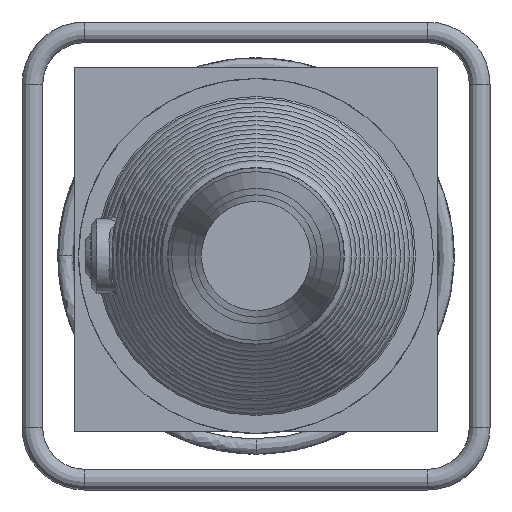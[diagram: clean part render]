
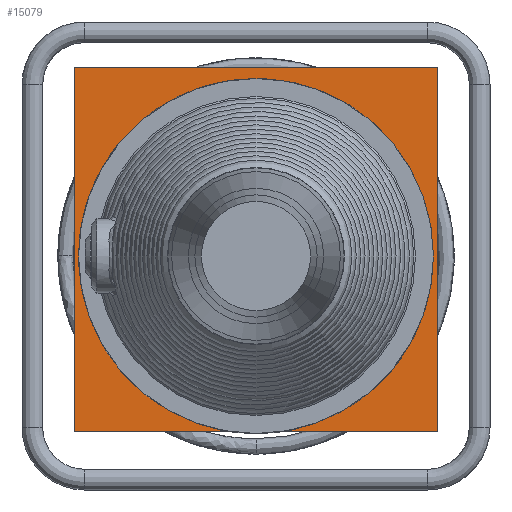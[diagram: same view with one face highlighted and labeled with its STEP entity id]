
A CAD part, left-side view. The second image highlights one B-rep face of the part: STEP entity #15079.
In plain terms, the highlighted planar face has unit normal (-1, 0, 0).
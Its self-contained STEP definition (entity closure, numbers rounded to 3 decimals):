
#1535=PLANE('',#15861);
#2458=LINE('',#35321,#3384);
#2459=LINE('',#35323,#3385);
#2460=LINE('',#35325,#3386);
#2461=LINE('',#35327,#3387);
#2462=LINE('',#35328,#3388);
#3384=VECTOR('',#18278,118.192);
#3385=VECTOR('',#18279,280.);
#3386=VECTOR('',#18280,280.);
#3387=VECTOR('',#18281,280.);
#3388=VECTOR('',#18282,118.192);
#4456=FACE_OUTER_BOUND('',#5448,.T.);
#5448=EDGE_LOOP('',(#13633,#13634,#13635,#13636,#13637,#13638));
#5940=CIRCLE('',#15838,136.5);
#7385=VERTEX_POINT('',#35293);
#7386=VERTEX_POINT('',#35294);
#7387=VERTEX_POINT('',#35320);
#7388=VERTEX_POINT('',#35322);
#7389=VERTEX_POINT('',#35324);
#7390=VERTEX_POINT('',#35326);
#9500=EDGE_CURVE('',#7385,#7386,#5940,.T.);
#9503=EDGE_CURVE('',#7386,#7387,#2458,.T.);
#9504=EDGE_CURVE('',#7387,#7388,#2459,.T.);
#9505=EDGE_CURVE('',#7388,#7389,#2460,.T.);
#9506=EDGE_CURVE('',#7389,#7390,#2461,.T.);
#9507=EDGE_CURVE('',#7390,#7385,#2462,.T.);
#13633=ORIENTED_EDGE('',*,*,#9500,.T.);
#13634=ORIENTED_EDGE('',*,*,#9503,.T.);
#13635=ORIENTED_EDGE('',*,*,#9504,.T.);
#13636=ORIENTED_EDGE('',*,*,#9505,.T.);
#13637=ORIENTED_EDGE('',*,*,#9506,.T.);
#13638=ORIENTED_EDGE('',*,*,#9507,.T.);
#15079=ADVANCED_FACE('',(#4456),#1535,.F.);
#15838=AXIS2_PLACEMENT_3D('',#35295,#18229,#18230);
#15861=AXIS2_PLACEMENT_3D('',#35319,#18276,#18277);
#18229=DIRECTION('center_axis',(1.,0.,0.));
#18230=DIRECTION('ref_axis',(0.,1.,0.));
#18276=DIRECTION('center_axis',(1.,0.,0.));
#18277=DIRECTION('ref_axis',(0.,0.,1.));
#18278=DIRECTION('',(0.,-1.,0.));
#18279=DIRECTION('',(0.,0.,1.));
#18280=DIRECTION('',(0.,1.,0.));
#18281=DIRECTION('',(0.,0.,-1.));
#18282=DIRECTION('',(0.,-1.,0.));
#35293=CARTESIAN_POINT('',(-112.151,21.808,-134.747));
#35294=CARTESIAN_POINT('',(-112.151,-21.808,-134.747));
#35295=CARTESIAN_POINT('Origin',(-112.151,0.,
0.));
#35319=CARTESIAN_POINT('Origin',(-112.151,0.,
5.253));
#35320=CARTESIAN_POINT('',(-112.151,-140.,-134.747));
#35321=CARTESIAN_POINT('',(-112.151,140.,-134.747));
#35322=CARTESIAN_POINT('',(-112.151,-140.,145.253));
#35323=CARTESIAN_POINT('',(-112.151,-140.,-134.747));
#35324=CARTESIAN_POINT('',(-112.151,140.,145.253));
#35325=CARTESIAN_POINT('',(-112.151,-140.,145.253));
#35326=CARTESIAN_POINT('',(-112.151,140.,-134.747));
#35327=CARTESIAN_POINT('',(-112.151,140.,145.253));
#35328=CARTESIAN_POINT('',(-112.151,140.,-134.747));
